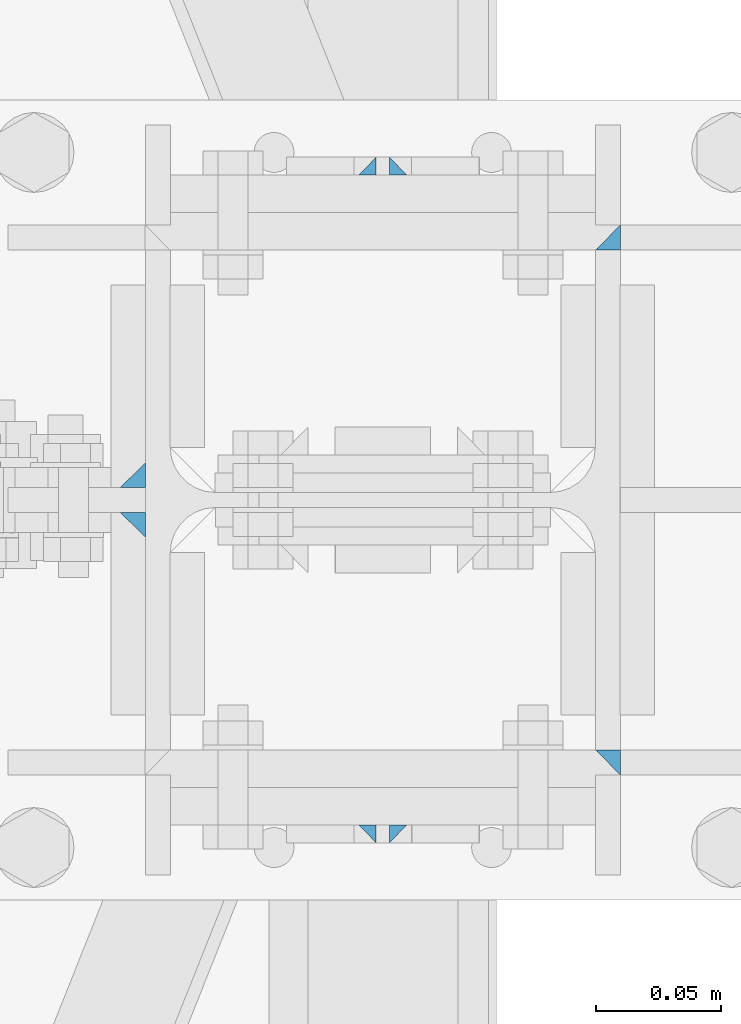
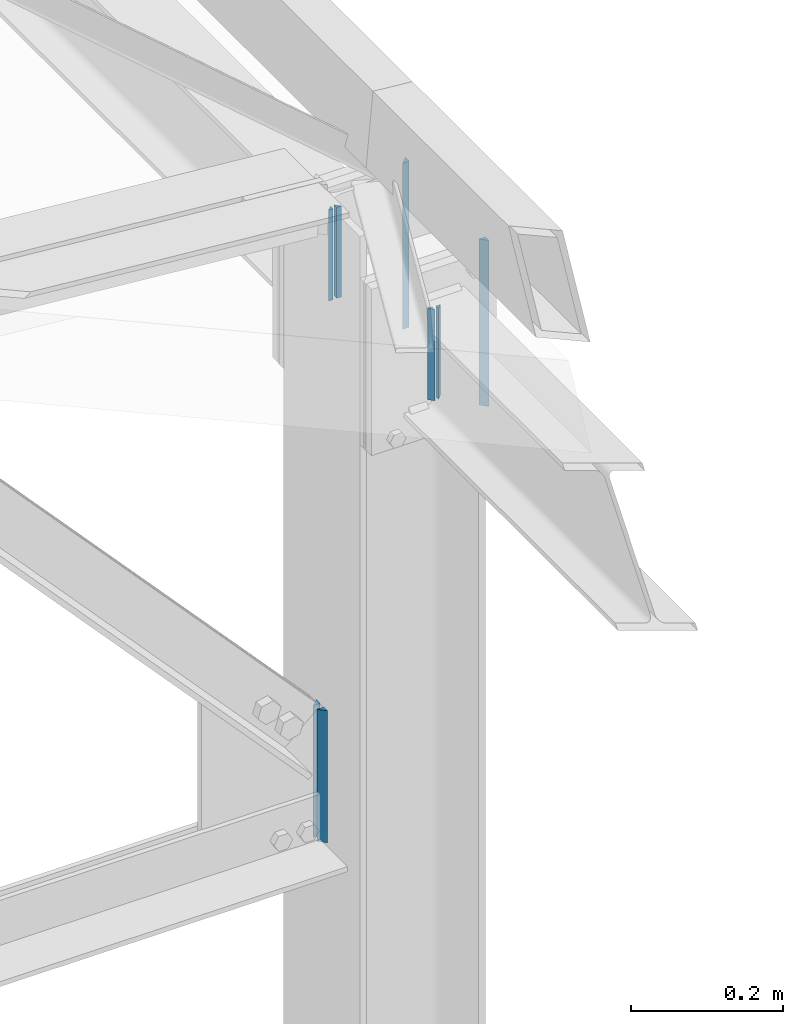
# One storey, part 31 of 251: 12 fasteners.
"""IFC4 building model written with IfcOpenShell, lengths in metres."""

from ifc_helpers import new_model, si_unit, frame, origin_with_axes, place, context, project, spatial, polyline, outline, extrude, type_object, element, save


model = new_model("IFC4")

# Units and contexts
model_context = context("Model", 3, precision=1e-05, world=origin_with_axes())
ifc_project = project(units=[si_unit("LENGTHUNIT", "METRE"), si_unit("AREAUNIT", "SQUARE_METRE"), si_unit("VOLUMEUNIT", "CUBIC_METRE"), si_unit("MASSUNIT", "GRAM", prefix="KILO"), si_unit("TIMEUNIT", "SECOND"), si_unit("PLANEANGLEUNIT", "RADIAN"), si_unit("SOLIDANGLEUNIT", "STERADIAN"), si_unit("THERMODYNAMICTEMPERATUREUNIT", "DEGREE_CELSIUS")], contexts=[model_context])

# Site, building, storey
placement_1 = place(None, origin_with_axes())
site = spatial("IfcSite", under=ifc_project, at=placement_1, Name="Italia", CompositionType="ELEMENT")
building = spatial("IfcBuilding", under=site, at=placement_1, Name="Deposito", CompositionType="ELEMENT")
storey = spatial("IfcBuildingStorey", under=building, at=placement_1, Name="Storey 0", CompositionType="ELEMENT", Elevation=0.0)

# Fasteners
fastener_type_1 = type_object("IfcFastenerType", Name="Collegamenti -064_-065 -065_-064 -065_-066 -066_-065 -066_-067 -067_-066 -067_-068 -068_-067", PredefinedType="WELD")
placement_2 = place(placement_1, origin_with_axes())
fastener_1_placement = place(placement_2, origin_with_axes())
element("IfcFastener", 1, at=fastener_1_placement, inside=storey, type_object=fastener_type_1, Name="Collegamenti -064_-065 -065_-064 -065_-066 -066_-065 -066_-067 -067_-066 -067_-068 -068_-067", context=model_context, shape_type="SweptSolid", body=[
    extrude(outline(polyline([(0.0, 0.0), (-0.00717354, 0.00695801), (0.0, 0.00695801), (0.0, 0.0)])), frame((20.0096, 4.87005, 5.72695), z_axis=(0.0, 0.0, 1.0), x_axis=(0.0, 1.0, 0.0)), (0.0, 0.0, 1.0), 0.146099),
])
fastener_type_2 = type_object("IfcFastenerType", Name="Collegamenti -064_-065 -065_-064 -065_-066 -066_-065 -066_-067 -067_-066 -067_-068 -068_-067", PredefinedType="WELD")
fastener_2_placement = place(placement_2, origin_with_axes())
element("IfcFastener", 2, at=fastener_2_placement, inside=storey, type_object=fastener_type_2, Name="Collegamenti -064_-065 -065_-064 -065_-066 -066_-065 -066_-067 -067_-066 -067_-068 -068_-067", context=model_context, shape_type="SweptSolid", body=[
    extrude(outline(polyline([(0.0, 0.0), (-0.00717354, 0.00695801), (0.0, 0.00695801), (0.0, 0.0)])), frame((19.9904, 4.87005, 5.87305), z_axis=(0.0, 0.0, -1.0), x_axis=(0.0, 1.0, 0.0)), (0.0, 0.0, 1.0), 0.146099),
])
fastener_type_3 = type_object("IfcFastenerType", Name="Collegamenti -064_-065 -065_-064 -065_-066 -066_-065 -066_-067 -067_-066 -067_-068 -068_-067", PredefinedType="WELD")
fastener_3_placement = place(placement_2, origin_with_axes())
element("IfcFastener", 3, at=fastener_3_placement, inside=storey, type_object=fastener_type_3, Name="Collegamenti -064_-065 -065_-064 -065_-066 -066_-065 -066_-067 -067_-066 -067_-068 -068_-067", context=model_context, shape_type="SweptSolid", body=[
    extrude(outline(polyline([(0.0, 0.0), (-0.00717354, 0.00695801), (0.0, 0.00695801), (0.0, 0.0)])), frame((20.0096, 4.87005, 5.72695), z_axis=(0.0, 0.0, 1.0), x_axis=(0.0, 1.0, 0.0)), (0.0, 0.0, 1.0), 0.146099),
])
fastener_type_4 = type_object("IfcFastenerType", Name="Collegamenti -064_-065 -065_-064 -065_-066 -066_-065 -066_-067 -067_-066 -067_-068 -068_-067", PredefinedType="WELD")
fastener_4_placement = place(placement_2, origin_with_axes())
element("IfcFastener", 4, at=fastener_4_placement, inside=storey, type_object=fastener_type_4, Name="Collegamenti -064_-065 -065_-064 -065_-066 -066_-065 -066_-067 -067_-066 -067_-068 -068_-067", context=model_context, shape_type="SweptSolid", body=[
    extrude(outline(polyline([(0.0, 0.0), (-0.00717354, 0.00695801), (0.0, 0.00695801), (0.0, 0.0)])), frame((19.9904, 4.87005, 5.87305), z_axis=(0.0, 0.0, -1.0), x_axis=(0.0, 1.0, 0.0)), (0.0, 0.0, 1.0), 0.146099),
])
fastener_type_5 = type_object("IfcFastenerType", Name="Collegamenti -064_-065 -065_-064 -065_-066 -066_-065 -066_-067 -067_-066 -067_-068 -068_-067", PredefinedType="WELD")
fastener_5_placement = place(placement_2, origin_with_axes())
element("IfcFastener", 5, at=fastener_5_placement, inside=storey, type_object=fastener_type_5, Name="Collegamenti -064_-065 -065_-064 -065_-066 -066_-065 -066_-067 -067_-066 -067_-068 -068_-067", context=model_context, shape_type="SweptSolid", body=[
    extrude(outline(polyline([(0.0, 0.0), (-0.0101733, 0.00986862), (0.0, 0.00986862), (0.0, 0.0)])), frame((20.0852, 4.90005, 5.93305), z_axis=(0.0, 0.0, -1.0), x_axis=(0.0, 1.0, 0.0)), (0.0, 0.0, 1.0), 0.2661),
])
fastener_type_6 = type_object("IfcFastenerType", Name="Collegamenti -064_-065 -065_-064 -065_-066 -066_-065 -066_-067 -067_-066 -067_-068 -068_-067", PredefinedType="WELD")
fastener_6_placement = place(placement_2, origin_with_axes())
element("IfcFastener", 6, at=fastener_6_placement, inside=storey, type_object=fastener_type_6, Name="Collegamenti -064_-065 -065_-064 -065_-066 -066_-065 -066_-067 -067_-066 -067_-068 -068_-067", context=model_context, shape_type="SweptSolid", body=[
    extrude(outline(polyline([(0.0, 0.0), (0.00717354, -0.00695801), (0.0, -0.00695801), (0.0, 0.0)])), frame((19.9904, 5.12995, 5.72695), z_axis=(0.0, 0.0, 1.0), x_axis=(0.0, 1.0, 0.0)), (0.0, 0.0, 1.0), 0.146099),
])
fastener_type_7 = type_object("IfcFastenerType", Name="Collegamenti -064_-065 -065_-064 -065_-066 -066_-065 -066_-067 -067_-066 -067_-068 -068_-067", PredefinedType="WELD")
fastener_7_placement = place(placement_2, origin_with_axes())
element("IfcFastener", 7, at=fastener_7_placement, inside=storey, type_object=fastener_type_7, Name="Collegamenti -064_-065 -065_-064 -065_-066 -066_-065 -066_-067 -067_-066 -067_-068 -068_-067", context=model_context, shape_type="SweptSolid", body=[
    extrude(outline(polyline([(0.0, 0.0), (0.00717354, -0.00695801), (0.0, -0.00695801), (0.0, 0.0)])), frame((20.0096, 5.12995, 5.87305), z_axis=(0.0, 0.0, -1.0), x_axis=(0.0, 1.0, 0.0)), (0.0, 0.0, 1.0), 0.146099),
])
fastener_type_8 = type_object("IfcFastenerType", Name="Collegamenti -064_-065 -065_-064 -065_-066 -066_-065 -066_-067 -067_-066 -067_-068 -068_-067", PredefinedType="WELD")
fastener_8_placement = place(placement_2, origin_with_axes())
element("IfcFastener", 8, at=fastener_8_placement, inside=storey, type_object=fastener_type_8, Name="Collegamenti -064_-065 -065_-064 -065_-066 -066_-065 -066_-067 -067_-066 -067_-068 -068_-067", context=model_context, shape_type="SweptSolid", body=[
    extrude(outline(polyline([(0.0, 0.0), (0.00717354, -0.00695801), (0.0, -0.00695801), (0.0, 0.0)])), frame((19.9904, 5.12995, 5.72695), z_axis=(0.0, 0.0, 1.0), x_axis=(0.0, 1.0, 0.0)), (0.0, 0.0, 1.0), 0.146099),
])
fastener_type_9 = type_object("IfcFastenerType", Name="Collegamenti -064_-065 -065_-064 -065_-066 -066_-065 -066_-067 -067_-066 -067_-068 -068_-067", PredefinedType="WELD")
fastener_9_placement = place(placement_2, origin_with_axes())
element("IfcFastener", 9, at=fastener_9_placement, inside=storey, type_object=fastener_type_9, Name="Collegamenti -064_-065 -065_-064 -065_-066 -066_-065 -066_-067 -067_-066 -067_-068 -068_-067", context=model_context, shape_type="SweptSolid", body=[
    extrude(outline(polyline([(0.0, 0.0), (0.00717354, -0.00695801), (0.0, -0.00695801), (0.0, 0.0)])), frame((20.0096, 5.12995, 5.87305), z_axis=(0.0, 0.0, -1.0), x_axis=(0.0, 1.0, 0.0)), (0.0, 0.0, 1.0), 0.146099),
])
fastener_type_10 = type_object("IfcFastenerType", Name="Collegamenti -064_-065 -065_-064 -065_-066 -066_-065 -066_-067 -067_-066 -067_-068 -068_-067", PredefinedType="WELD")
fastener_10_placement = place(placement_2, origin_with_axes())
element("IfcFastener", 10, at=fastener_10_placement, inside=storey, type_object=fastener_type_10, Name="Collegamenti -064_-065 -065_-064 -065_-066 -066_-065 -066_-067 -067_-066 -067_-068 -068_-067", context=model_context, shape_type="SweptSolid", body=[
    extrude(outline(polyline([(0.0, 0.0), (0.0101733, -0.00986862), (0.0, -0.00986862), (0.0, 0.0)])), frame((20.0852, 5.09995, 5.66695), z_axis=(0.0, 0.0, 1.0), x_axis=(0.0, 1.0, 0.0)), (0.0, 0.0, 1.0), 0.2661),
])
fastener_type_11 = type_object("IfcFastenerType", Name="Reticolare 3", PredefinedType="WELD")
fastener_11_placement = place(placement_2, origin_with_axes())
element("IfcFastener", 11, at=fastener_11_placement, inside=storey, type_object=fastener_type_11, Name="Reticolare 3", context=model_context, shape_type="SweptSolid", body=[
    extrude(outline(polyline([(0.0, 0.0), (-0.00986814, -0.0101738), (-0.00986814, 0.0), (0.0, 0.0)])), frame((19.9051, 5.01482, 5.18881), z_axis=(0.0, 0.0, -1.0), x_axis=(0.0, 1.0, 0.0)), (0.0, 0.0, 1.0), 0.211377),
])
fastener_type_12 = type_object("IfcFastenerType", Name="Reticolare 3", PredefinedType="WELD")
fastener_12_placement = place(placement_2, origin_with_axes())
element("IfcFastener", 12, at=fastener_12_placement, inside=storey, type_object=fastener_type_12, Name="Reticolare 3", context=model_context, shape_type="SweptSolid", body=[
    extrude(outline(polyline([(0.0, 0.0), (0.00986814, 0.0101738), (0.00986814, 0.0), (0.0, 0.0)])), frame((19.9051, 4.98518, 4.97743), z_axis=(0.0, 0.0, 1.0), x_axis=(0.0, 1.0, 0.0)), (0.0, 0.0, 1.0), 0.211377),
])

save(model, "model.ifc")
